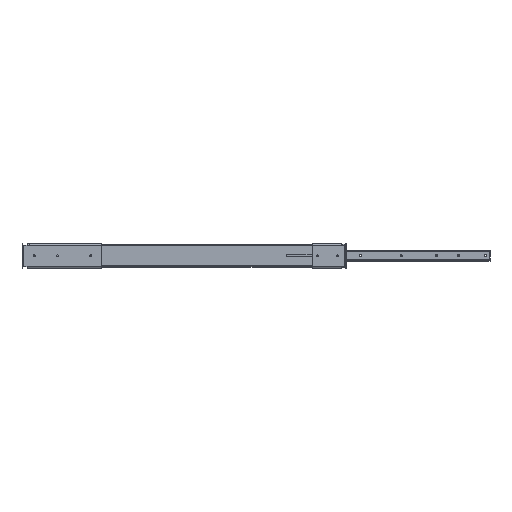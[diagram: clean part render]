
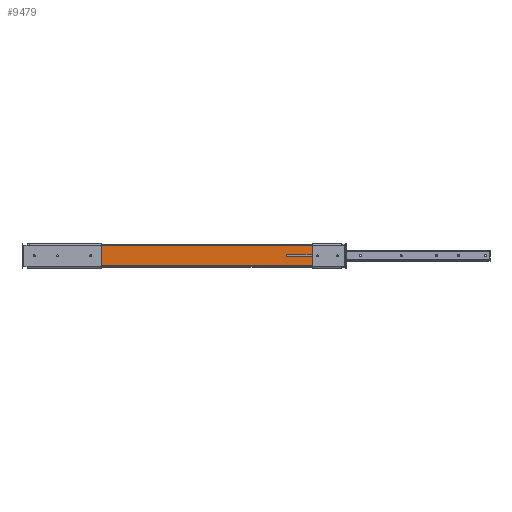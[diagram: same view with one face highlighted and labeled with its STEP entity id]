
A CAD part, top view. The second image highlights one B-rep face of the part: STEP entity #9479.
In plain terms, the highlighted planar face has unit normal (0, 0, 1).
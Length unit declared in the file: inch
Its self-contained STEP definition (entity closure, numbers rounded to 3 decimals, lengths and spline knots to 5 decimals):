
#3844 = CARTESIAN_POINT ( 'NONE',  ( 6.355, 1.91, 0. ) ) ;
#3845 = DIRECTION ( 'NONE',  ( 0., 1., 0. ) ) ;
#3846 = VECTOR ( 'NONE', #3845, 39.37008 ) ;
#3847 = CARTESIAN_POINT ( 'NONE',  ( 6.355, 0.09, 0. ) ) ;
#3848 = LINE ( 'NONE', #3847, #3846 ) ;
#3850 = CARTESIAN_POINT ( 'NONE',  ( 6.355, 0.09, 0. ) ) ;
#3875 = CARTESIAN_POINT ( 'NONE',  ( 22.96, 0.91, 0. ) ) ;
#3876 = DIRECTION ( 'NONE',  ( -1., 0., 0. ) ) ;
#3877 = DIRECTION ( 'NONE',  ( 0., 0., 1. ) ) ;
#3878 = CARTESIAN_POINT ( 'NONE',  ( 22.96, 1., 0. ) ) ;
#3879 = AXIS2_PLACEMENT_3D ( 'NONE', #3878, #3877, #3876 ) ;
#3880 = CIRCLE ( 'NONE', #3879, 0.09 ) ;
#4189 = DIRECTION ( 'NONE',  ( -1., 0., 0. ) ) ;
#4190 = VECTOR ( 'NONE', #4189, 39.37008 ) ;
#4191 = CARTESIAN_POINT ( 'NONE',  ( 25.88, 1.09, 0. ) ) ;
#4192 = LINE ( 'NONE', #4191, #4190 ) ;
#4201 = CARTESIAN_POINT ( 'NONE',  ( 22.96, 1.09, 0. ) ) ;
#4209 = CARTESIAN_POINT ( 'NONE',  ( 25.155, 1.09, 0. ) ) ;
#4223 = CARTESIAN_POINT ( 'NONE',  ( 25.155, 0.91, 0. ) ) ;
#4275 = DIRECTION ( 'NONE',  ( 1., 0., 0. ) ) ;
#4276 = VECTOR ( 'NONE', #4275, 39.37008 ) ;
#4277 = CARTESIAN_POINT ( 'NONE',  ( 25.88, 0.91, 0. ) ) ;
#4281 = LINE ( 'NONE', #4277, #4276 ) ;
#4407 = DIRECTION ( 'NONE',  ( 0., -1., 0. ) ) ;
#4408 = VECTOR ( 'NONE', #4407, 39.37008 ) ;
#4409 = CARTESIAN_POINT ( 'NONE',  ( 25.155, 0.09, 0. ) ) ;
#4410 = LINE ( 'NONE', #4409, #4408 ) ;
#4420 = DIRECTION ( 'NONE',  ( 0., -1., 0. ) ) ;
#4421 = VECTOR ( 'NONE', #4420, 39.37008 ) ;
#4422 = CARTESIAN_POINT ( 'NONE',  ( 25.155, 0.09, 0. ) ) ;
#4423 = LINE ( 'NONE', #4422, #4421 ) ;
#4608 = PLANE ( 'NONE',  #4728 ) ;
#4699 = DIRECTION ( 'NONE',  ( -1., 0., 0. ) ) ;
#4700 = VECTOR ( 'NONE', #4699, 39.37008 ) ;
#4701 = CARTESIAN_POINT ( 'NONE',  ( 28., 0.09, 0. ) ) ;
#4702 = LINE ( 'NONE', #4701, #4700 ) ;
#4703 = CARTESIAN_POINT ( 'NONE',  ( 25.155, 1.91, 0. ) ) ;
#4721 = DIRECTION ( 'NONE',  ( -1., 0., 0. ) ) ;
#4722 = VECTOR ( 'NONE', #4721, 39.37008 ) ;
#4723 = CARTESIAN_POINT ( 'NONE',  ( 28., 1.91, 0. ) ) ;
#4725 = DIRECTION ( 'NONE',  ( -1., 0., 0. ) ) ;
#4726 = DIRECTION ( 'NONE',  ( 0., 0., -1. ) ) ;
#4727 = CARTESIAN_POINT ( 'NONE',  ( 28., 0.09, 0. ) ) ;
#4728 = AXIS2_PLACEMENT_3D ( 'NONE', #4727, #4726, #4725 ) ;
#4729 = CARTESIAN_POINT ( 'NONE',  ( 25.155, 0.09, 0. ) ) ;
#4730 = FACE_OUTER_BOUND ( 'NONE', #9480, .T. ) ;
#4743 = LINE ( 'NONE', #4723, #4722 ) ;
#9080 = EDGE_CURVE ( 'NONE', #9212, #9081, #3880, .T. ) ;
#9081 = VERTEX_POINT ( 'NONE', #3875 ) ;
#9101 = VERTEX_POINT ( 'NONE', #3850 ) ;
#9106 = EDGE_CURVE ( 'NONE', #9101, #9107, #3848, .T. ) ;
#9107 = VERTEX_POINT ( 'NONE', #3844 ) ;
#9152 = EDGE_CURVE ( 'NONE', #9081, #9186, #4281, .T. ) ;
#9186 = VERTEX_POINT ( 'NONE', #4223 ) ;
#9202 = VERTEX_POINT ( 'NONE', #4209 ) ;
#9212 = VERTEX_POINT ( 'NONE', #4201 ) ;
#9217 = EDGE_CURVE ( 'NONE', #9202, #9212, #4192, .T. ) ;
#9416 = EDGE_CURVE ( 'NONE', #9486, #9202, #4423, .T. ) ;
#9423 = EDGE_CURVE ( 'NONE', #9186, #9484, #4410, .T. ) ;
#9479 = ADVANCED_FACE ( 'NONE', ( #4730 ), #4608, .F. ) ;
#9480 = EDGE_LOOP ( 'NONE', ( #9481, #9487, #9489, #9512, #9518, #9519, #9520, #9513 ) ) ;
#9481 = ORIENTED_EDGE ( 'NONE', *, *, #9106, .F. ) ;
#9484 = VERTEX_POINT ( 'NONE', #4729 ) ;
#9486 = VERTEX_POINT ( 'NONE', #4703 ) ;
#9487 = ORIENTED_EDGE ( 'NONE', *, *, #9488, .F. ) ;
#9488 = EDGE_CURVE ( 'NONE', #9484, #9101, #4702, .T. ) ;
#9489 = ORIENTED_EDGE ( 'NONE', *, *, #9423, .F. ) ;
#9512 = ORIENTED_EDGE ( 'NONE', *, *, #9152, .F. ) ;
#9513 = ORIENTED_EDGE ( 'NONE', *, *, #9514, .T. ) ;
#9514 = EDGE_CURVE ( 'NONE', #9486, #9107, #4743, .T. ) ;
#9518 = ORIENTED_EDGE ( 'NONE', *, *, #9080, .F. ) ;
#9519 = ORIENTED_EDGE ( 'NONE', *, *, #9217, .F. ) ;
#9520 = ORIENTED_EDGE ( 'NONE', *, *, #9416, .F. ) ;
